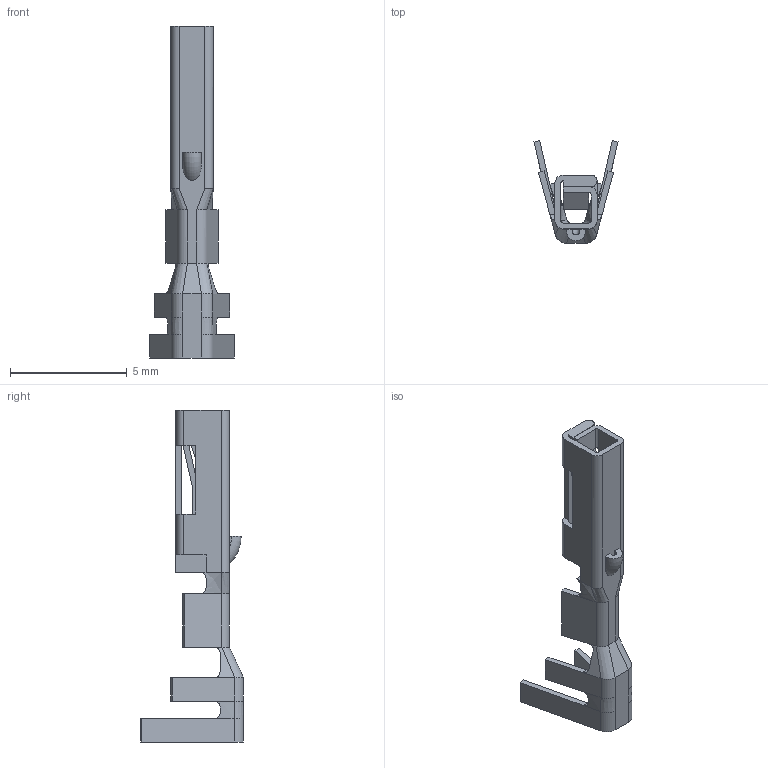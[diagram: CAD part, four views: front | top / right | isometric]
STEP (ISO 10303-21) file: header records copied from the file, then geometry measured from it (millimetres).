
FILE_DESCRIPTION((''),'2;1');
FILE_NAME('C-175180-1','2008-09-03T',('workeradm'),('Tyco Electronics Corporation'),'PRO/ENGINEER BY PARAMETRIC TECHNOLOGY CORPORATION, 2005450','PRO/ENGINEER BY PARAMETRIC TECHNOLOGY CORPORATION, 2005450','');
FILE_SCHEMA(('CONFIG_CONTROL_DESIGN', 'GEOMETRIC_VALIDATION_PROPERTIES_MIM'));
Length unit declared in the file: millimetre
Products named in the file (1): C-175180-1
Bounding box: 3.6 x 4.4 x 14.2 mm (x, y, z)
Volume: 21.8 mm3; surface area: 196.3 mm2
Topology: 1 solids, 1 shells, 152 faces, 397 edges, 244 vertices
Faces by surface type: plane 88, cylinder 38, bspline 24, torus 2
Entity records: 5616 total; most frequent: CARTESIAN_POINT 1903, ORIENTED_EDGE 794, DIRECTION 657, EDGE_CURVE 397, VECTOR 299, LINE 299, VERTEX_POINT 244, AXIS2_PLACEMENT_3D 179
